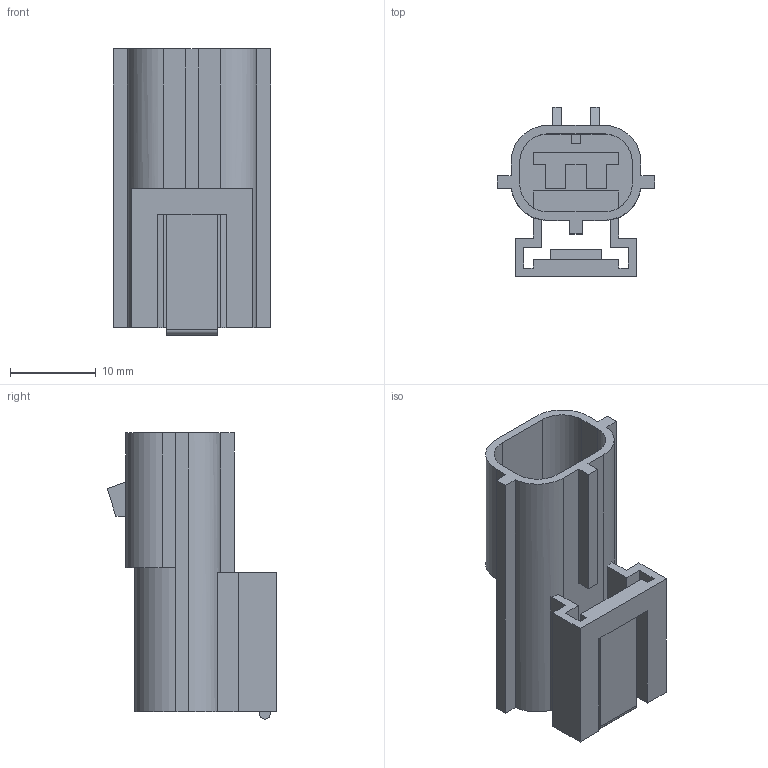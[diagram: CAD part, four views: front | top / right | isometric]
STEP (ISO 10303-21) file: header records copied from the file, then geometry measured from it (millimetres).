
FILE_DESCRIPTION((''),'2;1');
FILE_NAME('C-0344274-01-3','2008-03-20T',('workeradm'),('Tyco Electronics Corporation'),'PRO/ENGINEER BY PARAMETRIC TECHNOLOGY CORPORATION, 2005450','PRO/ENGINEER BY PARAMETRIC TECHNOLOGY CORPORATION, 2005450','');
FILE_SCHEMA(('CONFIG_CONTROL_DESIGN', 'GEOMETRIC_VALIDATION_PROPERTIES_MIM'));
Length unit declared in the file: millimetre
Products named in the file (1): C-0344274-01-3
Bounding box: 18.32 x 19.75 x 33.35 mm (x, y, z)
Volume: 3347.2 mm3; surface area: 4175.2 mm2
Topology: 1 solids, 2 shells, 108 faces, 300 edges, 200 vertices
Faces by surface type: plane 91, cylinder 17
Entity records: 3555 total; most frequent: CARTESIAN_POINT 609, ORIENTED_EDGE 600, DIRECTION 556, EDGE_CURVE 300, VECTOR 260, LINE 260, VERTEX_POINT 200, AXIS2_PLACEMENT_3D 148
